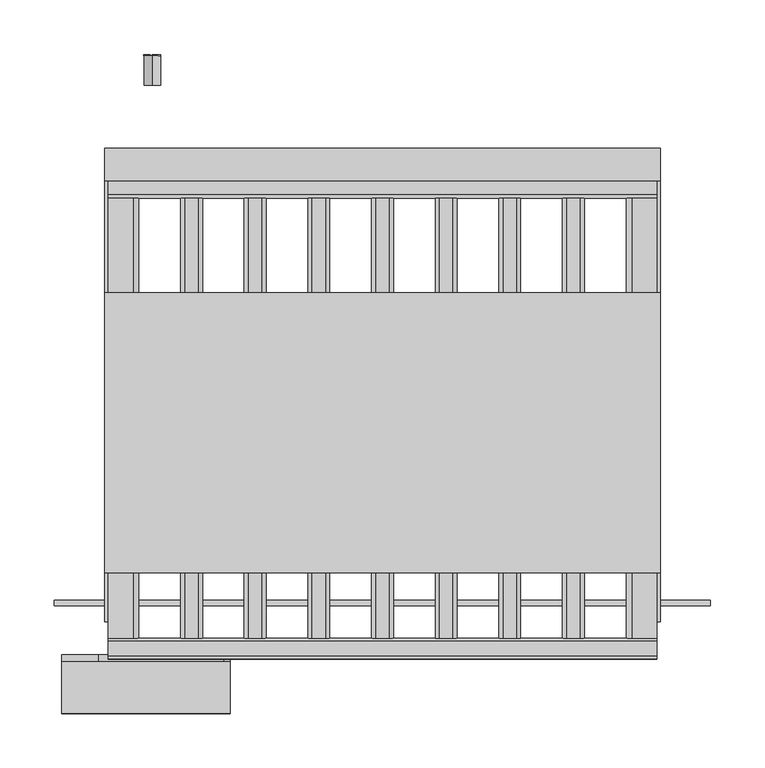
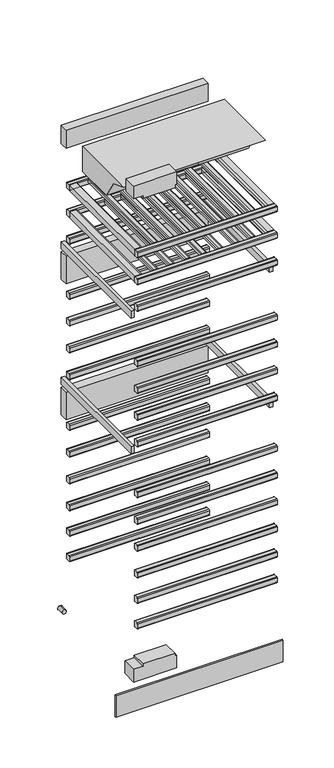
"""IFC4 building model written with IfcOpenShell, lengths in millimetres: proxy geometry, 11503640_USA_KWT2612SF : 36261215_USA_11503640_KWT2612SF."""

from ifc_helpers import new_model, si_unit, point, frame, frame_2d, origin, place, context, project, spatial, polyline, circle_curve, trimmed, segment, composite_curve, outline, extrude, source, transform, mapped, element, save


def specialty_equipment_73186923(model_context):
    return source(origin(), model_context, "Body", "SweptSolid", [
        extrude(outline(composite_curve([segment(polyline([(74.0, 384.0), (87.0, 384.0)]), True, "CONTINUOUS"), segment(trimmed(circle_curve(frame_2d((87.0, 381.0)), 3.0), [point((87.0, 384.0))], [point((90.0, 381.0))], False, "CARTESIAN"), True, "CONTINUOUS"), segment(polyline([(90.0, 381.0), (90.0, 365.0)]), True, "CONTINUOUS"), segment(trimmed(circle_curve(frame_2d((87.0, 365.0)), 3.0), [point((90.0, 365.0))], [point((87.0, 362.0))], False, "CARTESIAN"), True, "CONTINUOUS"), segment(polyline([(87.0, 362.0), (74.0, 362.0)]), True, "CONTINUOUS"), segment(trimmed(circle_curve(frame_2d((74.0, 365.0)), 3.0), [point((74.0, 362.0))], [point((71.0, 365.0))], False, "CARTESIAN"), True, "CONTINUOUS"), segment(polyline([(71.0, 365.0), (71.0, 381.0)]), True, "CONTINUOUS"), segment(trimmed(circle_curve(frame_2d((74.0, 381.0)), 3.0), [point((71.0, 381.0))], [point((74.0, 384.0))], False, "CARTESIAN"), True, "CONTINUOUS")], self_intersect=False)), frame((-252.0, 0.0, 0.0), z_axis=(1.0, 0.0, 0.0), x_axis=(0.0, 1.0, 0.0)), (0.0, 0.0, 1.0), 504.0),
        extrude(outline(composite_curve([segment(polyline([(497.0, 384.0), (510.0, 384.0)]), True, "CONTINUOUS"), segment(trimmed(circle_curve(frame_2d((510.0, 381.0)), 3.0), [point((510.0, 384.0))], [point((513.0, 381.0))], False, "CARTESIAN"), True, "CONTINUOUS"), segment(polyline([(513.0, 381.0), (513.0, 365.0)]), True, "CONTINUOUS"), segment(trimmed(circle_curve(frame_2d((510.0, 365.0)), 3.0), [point((513.0, 365.0))], [point((510.0, 362.0))], False, "CARTESIAN"), True, "CONTINUOUS"), segment(polyline([(510.0, 362.0), (497.0, 362.0)]), True, "CONTINUOUS"), segment(trimmed(circle_curve(frame_2d((497.0, 365.0)), 3.0), [point((497.0, 362.0))], [point((494.0, 365.0))], False, "CARTESIAN"), True, "CONTINUOUS"), segment(polyline([(494.0, 365.0), (494.0, 381.0)]), True, "CONTINUOUS"), segment(trimmed(circle_curve(frame_2d((497.0, 381.0)), 3.0), [point((494.0, 381.0))], [point((497.0, 384.0))], False, "CARTESIAN"), True, "CONTINUOUS")], self_intersect=False)), frame((-252.0, 0.0, 0.0), z_axis=(1.0, 0.0, 0.0), x_axis=(0.0, 1.0, 0.0)), (0.0, 0.0, 1.0), 504.0),
        extrude(outline(composite_curve([segment(polyline([(74.0, 481.0), (87.0, 481.0)]), True, "CONTINUOUS"), segment(trimmed(circle_curve(frame_2d((87.0, 478.0)), 3.0), [point((87.0, 481.0))], [point((90.0, 478.0))], False, "CARTESIAN"), True, "CONTINUOUS"), segment(polyline([(90.0, 478.0), (90.0, 462.0)]), True, "CONTINUOUS"), segment(trimmed(circle_curve(frame_2d((87.0, 462.0)), 3.0), [point((90.0, 462.0))], [point((87.0, 459.0))], False, "CARTESIAN"), True, "CONTINUOUS"), segment(polyline([(87.0, 459.0), (74.0, 459.0)]), True, "CONTINUOUS"), segment(trimmed(circle_curve(frame_2d((74.0, 462.0)), 3.0), [point((74.0, 459.0))], [point((71.0, 462.0))], False, "CARTESIAN"), True, "CONTINUOUS"), segment(polyline([(71.0, 462.0), (71.0, 478.0)]), True, "CONTINUOUS"), segment(trimmed(circle_curve(frame_2d((74.0, 478.0)), 3.0), [point((71.0, 478.0))], [point((74.0, 481.0))], False, "CARTESIAN"), True, "CONTINUOUS")], self_intersect=False)), frame((-252.0, 0.0, 0.0), z_axis=(1.0, 0.0, 0.0), x_axis=(0.0, 1.0, 0.0)), (0.0, 0.0, 1.0), 504.0),
        extrude(outline(composite_curve([segment(polyline([(497.0, 481.0), (510.0, 481.0)]), True, "CONTINUOUS"), segment(trimmed(circle_curve(frame_2d((510.0, 478.0)), 3.0), [point((510.0, 481.0))], [point((513.0, 478.0))], False, "CARTESIAN"), True, "CONTINUOUS"), segment(polyline([(513.0, 478.0), (513.0, 462.0)]), True, "CONTINUOUS"), segment(trimmed(circle_curve(frame_2d((510.0, 462.0)), 3.0), [point((513.0, 462.0))], [point((510.0, 459.0))], False, "CARTESIAN"), True, "CONTINUOUS"), segment(polyline([(510.0, 459.0), (497.0, 459.0)]), True, "CONTINUOUS"), segment(trimmed(circle_curve(frame_2d((497.0, 462.0)), 3.0), [point((497.0, 459.0))], [point((494.0, 462.0))], False, "CARTESIAN"), True, "CONTINUOUS"), segment(polyline([(494.0, 462.0), (494.0, 478.0)]), True, "CONTINUOUS"), segment(trimmed(circle_curve(frame_2d((497.0, 478.0)), 3.0), [point((494.0, 478.0))], [point((497.0, 481.0))], False, "CARTESIAN"), True, "CONTINUOUS")], self_intersect=False)), frame((-252.0, 0.0, 0.0), z_axis=(1.0, 0.0, 0.0), x_axis=(0.0, 1.0, 0.0)), (0.0, 0.0, 1.0), 504.0),
        extrude(outline(composite_curve([segment(polyline([(74.0, 578.0), (87.0, 578.0)]), True, "CONTINUOUS"), segment(trimmed(circle_curve(frame_2d((87.0, 575.0)), 3.0), [point((87.0, 578.0))], [point((90.0, 575.0))], False, "CARTESIAN"), True, "CONTINUOUS"), segment(polyline([(90.0, 575.0), (90.0, 559.0)]), True, "CONTINUOUS"), segment(trimmed(circle_curve(frame_2d((87.0, 559.0)), 3.0), [point((90.0, 559.0))], [point((87.0, 556.0))], False, "CARTESIAN"), True, "CONTINUOUS"), segment(polyline([(87.0, 556.0), (74.0, 556.0)]), True, "CONTINUOUS"), segment(trimmed(circle_curve(frame_2d((74.0, 559.0)), 3.0), [point((74.0, 556.0))], [point((71.0, 559.0))], False, "CARTESIAN"), True, "CONTINUOUS"), segment(polyline([(71.0, 559.0), (71.0, 575.0)]), True, "CONTINUOUS"), segment(trimmed(circle_curve(frame_2d((74.0, 575.0)), 3.0), [point((71.0, 575.0))], [point((74.0, 578.0))], False, "CARTESIAN"), True, "CONTINUOUS")], self_intersect=False)), frame((-252.0, 0.0, 0.0), z_axis=(1.0, 0.0, 0.0), x_axis=(0.0, 1.0, 0.0)), (0.0, 0.0, 1.0), 504.0),
        extrude(outline(composite_curve([segment(polyline([(497.0, 578.0), (510.0, 578.0)]), True, "CONTINUOUS"), segment(trimmed(circle_curve(frame_2d((510.0, 575.0)), 3.0), [point((510.0, 578.0))], [point((513.0, 575.0))], False, "CARTESIAN"), True, "CONTINUOUS"), segment(polyline([(513.0, 575.0), (513.0, 559.0)]), True, "CONTINUOUS"), segment(trimmed(circle_curve(frame_2d((510.0, 559.0)), 3.0), [point((513.0, 559.0))], [point((510.0, 556.0))], False, "CARTESIAN"), True, "CONTINUOUS"), segment(polyline([(510.0, 556.0), (497.0, 556.0)]), True, "CONTINUOUS"), segment(trimmed(circle_curve(frame_2d((497.0, 559.0)), 3.0), [point((497.0, 556.0))], [point((494.0, 559.0))], False, "CARTESIAN"), True, "CONTINUOUS"), segment(polyline([(494.0, 559.0), (494.0, 575.0)]), True, "CONTINUOUS"), segment(trimmed(circle_curve(frame_2d((497.0, 575.0)), 3.0), [point((494.0, 575.0))], [point((497.0, 578.0))], False, "CARTESIAN"), True, "CONTINUOUS")], self_intersect=False)), frame((-252.0, 0.0, 0.0), z_axis=(1.0, 0.0, 0.0), x_axis=(0.0, 1.0, 0.0)), (0.0, 0.0, 1.0), 504.0),
        extrude(outline(composite_curve([segment(polyline([(74.0, 680.0), (87.0, 680.0)]), True, "CONTINUOUS"), segment(trimmed(circle_curve(frame_2d((87.0, 677.0)), 3.0), [point((87.0, 680.0))], [point((90.0, 677.0))], False, "CARTESIAN"), True, "CONTINUOUS"), segment(polyline([(90.0, 677.0), (90.0, 661.0)]), True, "CONTINUOUS"), segment(trimmed(circle_curve(frame_2d((87.0, 661.0)), 3.0), [point((90.0, 661.0))], [point((87.0, 658.0))], False, "CARTESIAN"), True, "CONTINUOUS"), segment(polyline([(87.0, 658.0), (74.0, 658.0)]), True, "CONTINUOUS"), segment(trimmed(circle_curve(frame_2d((74.0, 661.0)), 3.0), [point((74.0, 658.0))], [point((71.0, 661.0))], False, "CARTESIAN"), True, "CONTINUOUS"), segment(polyline([(71.0, 661.0), (71.0, 677.0)]), True, "CONTINUOUS"), segment(trimmed(circle_curve(frame_2d((74.0, 677.0)), 3.0), [point((71.0, 677.0))], [point((74.0, 680.0))], False, "CARTESIAN"), True, "CONTINUOUS")], self_intersect=False)), frame((-252.0, 0.0, 0.0), z_axis=(1.0, 0.0, 0.0), x_axis=(0.0, 1.0, 0.0)), (0.0, 0.0, 1.0), 504.0),
        extrude(outline(composite_curve([segment(polyline([(497.0, 680.0), (510.0, 680.0)]), True, "CONTINUOUS"), segment(trimmed(circle_curve(frame_2d((510.0, 677.0)), 3.0), [point((510.0, 680.0))], [point((513.0, 677.0))], False, "CARTESIAN"), True, "CONTINUOUS"), segment(polyline([(513.0, 677.0), (513.0, 661.0)]), True, "CONTINUOUS"), segment(trimmed(circle_curve(frame_2d((510.0, 661.0)), 3.0), [point((513.0, 661.0))], [point((510.0, 658.0))], False, "CARTESIAN"), True, "CONTINUOUS"), segment(polyline([(510.0, 658.0), (497.0, 658.0)]), True, "CONTINUOUS"), segment(trimmed(circle_curve(frame_2d((497.0, 661.0)), 3.0), [point((497.0, 658.0))], [point((494.0, 661.0))], False, "CARTESIAN"), True, "CONTINUOUS"), segment(polyline([(494.0, 661.0), (494.0, 677.0)]), True, "CONTINUOUS"), segment(trimmed(circle_curve(frame_2d((497.0, 677.0)), 3.0), [point((494.0, 677.0))], [point((497.0, 680.0))], False, "CARTESIAN"), True, "CONTINUOUS")], self_intersect=False)), frame((-252.0, 0.0, 0.0), z_axis=(1.0, 0.0, 0.0), x_axis=(0.0, 1.0, 0.0)), (0.0, 0.0, 1.0), 504.0),
        extrude(outline(composite_curve([segment(polyline([(74.0, 782.0), (87.0, 782.0)]), True, "CONTINUOUS"), segment(trimmed(circle_curve(frame_2d((87.0, 779.0)), 3.0), [point((87.0, 782.0))], [point((90.0, 779.0))], False, "CARTESIAN"), True, "CONTINUOUS"), segment(polyline([(90.0, 779.0), (90.0, 763.0)]), True, "CONTINUOUS"), segment(trimmed(circle_curve(frame_2d((87.0, 763.0)), 3.0), [point((90.0, 763.0))], [point((87.0, 760.0))], False, "CARTESIAN"), True, "CONTINUOUS"), segment(polyline([(87.0, 760.0), (74.0, 760.0)]), True, "CONTINUOUS"), segment(trimmed(circle_curve(frame_2d((74.0, 763.0)), 3.0), [point((74.0, 760.0))], [point((71.0, 763.0))], False, "CARTESIAN"), True, "CONTINUOUS"), segment(polyline([(71.0, 763.0), (71.0, 779.0)]), True, "CONTINUOUS"), segment(trimmed(circle_curve(frame_2d((74.0, 779.0)), 3.0), [point((71.0, 779.0))], [point((74.0, 782.0))], False, "CARTESIAN"), True, "CONTINUOUS")], self_intersect=False)), frame((-252.0, 0.0, 0.0), z_axis=(1.0, 0.0, 0.0), x_axis=(0.0, 1.0, 0.0)), (0.0, 0.0, 1.0), 504.0),
        extrude(outline(composite_curve([segment(polyline([(497.0, 782.0), (510.0, 782.0)]), True, "CONTINUOUS"), segment(trimmed(circle_curve(frame_2d((510.0, 779.0)), 3.0), [point((510.0, 782.0))], [point((513.0, 779.0))], False, "CARTESIAN"), True, "CONTINUOUS"), segment(polyline([(513.0, 779.0), (513.0, 763.0)]), True, "CONTINUOUS"), segment(trimmed(circle_curve(frame_2d((510.0, 763.0)), 3.0), [point((513.0, 763.0))], [point((510.0, 760.0))], False, "CARTESIAN"), True, "CONTINUOUS"), segment(polyline([(510.0, 760.0), (497.0, 760.0)]), True, "CONTINUOUS"), segment(trimmed(circle_curve(frame_2d((497.0, 763.0)), 3.0), [point((497.0, 760.0))], [point((494.0, 763.0))], False, "CARTESIAN"), True, "CONTINUOUS"), segment(polyline([(494.0, 763.0), (494.0, 779.0)]), True, "CONTINUOUS"), segment(trimmed(circle_curve(frame_2d((497.0, 779.0)), 3.0), [point((494.0, 779.0))], [point((497.0, 782.0))], False, "CARTESIAN"), True, "CONTINUOUS")], self_intersect=False)), frame((-252.0, 0.0, 0.0), z_axis=(1.0, 0.0, 0.0), x_axis=(0.0, 1.0, 0.0)), (0.0, 0.0, 1.0), 504.0),
        extrude(outline(composite_curve([segment(polyline([(74.0, 884.0), (87.0, 884.0)]), True, "CONTINUOUS"), segment(trimmed(circle_curve(frame_2d((87.0, 881.0)), 3.0), [point((87.0, 884.0))], [point((90.0, 881.0))], False, "CARTESIAN"), True, "CONTINUOUS"), segment(polyline([(90.0, 881.0), (90.0, 865.0)]), True, "CONTINUOUS"), segment(trimmed(circle_curve(frame_2d((87.0, 865.0)), 3.0), [point((90.0, 865.0))], [point((87.0, 862.0))], False, "CARTESIAN"), True, "CONTINUOUS"), segment(polyline([(87.0, 862.0), (74.0, 862.0)]), True, "CONTINUOUS"), segment(trimmed(circle_curve(frame_2d((74.0, 865.0)), 3.0), [point((74.0, 862.0))], [point((71.0, 865.0))], False, "CARTESIAN"), True, "CONTINUOUS"), segment(polyline([(71.0, 865.0), (71.0, 881.0)]), True, "CONTINUOUS"), segment(trimmed(circle_curve(frame_2d((74.0, 881.0)), 3.0), [point((71.0, 881.0))], [point((74.0, 884.0))], False, "CARTESIAN"), True, "CONTINUOUS")], self_intersect=False)), frame((-252.0, 0.0, 0.0), z_axis=(1.0, 0.0, 0.0), x_axis=(0.0, 1.0, 0.0)), (0.0, 0.0, 1.0), 504.0),
        extrude(outline(composite_curve([segment(polyline([(497.0, 884.0), (510.0, 884.0)]), True, "CONTINUOUS"), segment(trimmed(circle_curve(frame_2d((510.0, 881.0)), 3.0), [point((510.0, 884.0))], [point((513.0, 881.0))], False, "CARTESIAN"), True, "CONTINUOUS"), segment(polyline([(513.0, 881.0), (513.0, 865.0)]), True, "CONTINUOUS"), segment(trimmed(circle_curve(frame_2d((510.0, 865.0)), 3.0), [point((513.0, 865.0))], [point((510.0, 862.0))], False, "CARTESIAN"), True, "CONTINUOUS"), segment(polyline([(510.0, 862.0), (497.0, 862.0)]), True, "CONTINUOUS"), segment(trimmed(circle_curve(frame_2d((497.0, 865.0)), 3.0), [point((497.0, 862.0))], [point((494.0, 865.0))], False, "CARTESIAN"), True, "CONTINUOUS"), segment(polyline([(494.0, 865.0), (494.0, 881.0)]), True, "CONTINUOUS"), segment(trimmed(circle_curve(frame_2d((497.0, 881.0)), 3.0), [point((494.0, 881.0))], [point((497.0, 884.0))], False, "CARTESIAN"), True, "CONTINUOUS")], self_intersect=False)), frame((-252.0, 0.0, 0.0), z_axis=(1.0, 0.0, 0.0), x_axis=(0.0, 1.0, 0.0)), (0.0, 0.0, 1.0), 504.0),
        extrude(outline(composite_curve([segment(polyline([(74.0, 1077.0), (87.0, 1077.0)]), True, "CONTINUOUS"), segment(trimmed(circle_curve(frame_2d((87.0, 1074.0)), 3.0), [point((87.0, 1077.0))], [point((90.0, 1074.0))], False, "CARTESIAN"), True, "CONTINUOUS"), segment(polyline([(90.0, 1074.0), (90.0, 1058.0)]), True, "CONTINUOUS"), segment(trimmed(circle_curve(frame_2d((87.0, 1058.0)), 3.0), [point((90.0, 1058.0))], [point((87.0, 1055.0))], False, "CARTESIAN"), True, "CONTINUOUS"), segment(polyline([(87.0, 1055.0), (74.0, 1055.0)]), True, "CONTINUOUS"), segment(trimmed(circle_curve(frame_2d((74.0, 1058.0)), 3.0), [point((74.0, 1055.0))], [point((71.0, 1058.0))], False, "CARTESIAN"), True, "CONTINUOUS"), segment(polyline([(71.0, 1058.0), (71.0, 1074.0)]), True, "CONTINUOUS"), segment(trimmed(circle_curve(frame_2d((74.0, 1074.0)), 3.0), [point((71.0, 1074.0))], [point((74.0, 1077.0))], False, "CARTESIAN"), True, "CONTINUOUS")], self_intersect=False)), frame((-252.0, 0.0, 0.0), z_axis=(1.0, 0.0, 0.0), x_axis=(0.0, 1.0, 0.0)), (0.0, 0.0, 1.0), 504.0),
        extrude(outline(composite_curve([segment(polyline([(497.0, 1077.0), (510.0, 1077.0)]), True, "CONTINUOUS"), segment(trimmed(circle_curve(frame_2d((510.0, 1074.0)), 3.0), [point((510.0, 1077.0))], [point((513.0, 1074.0))], False, "CARTESIAN"), True, "CONTINUOUS"), segment(polyline([(513.0, 1074.0), (513.0, 1058.0)]), True, "CONTINUOUS"), segment(trimmed(circle_curve(frame_2d((510.0, 1058.0)), 3.0), [point((513.0, 1058.0))], [point((510.0, 1055.0))], False, "CARTESIAN"), True, "CONTINUOUS"), segment(polyline([(510.0, 1055.0), (497.0, 1055.0)]), True, "CONTINUOUS"), segment(trimmed(circle_curve(frame_2d((497.0, 1058.0)), 3.0), [point((497.0, 1055.0))], [point((494.0, 1058.0))], False, "CARTESIAN"), True, "CONTINUOUS"), segment(polyline([(494.0, 1058.0), (494.0, 1074.0)]), True, "CONTINUOUS"), segment(trimmed(circle_curve(frame_2d((497.0, 1074.0)), 3.0), [point((494.0, 1074.0))], [point((497.0, 1077.0))], False, "CARTESIAN"), True, "CONTINUOUS")], self_intersect=False)), frame((-252.0, 0.0, 0.0), z_axis=(1.0, 0.0, 0.0), x_axis=(0.0, 1.0, 0.0)), (0.0, 0.0, 1.0), 504.0),
        extrude(outline(composite_curve([segment(polyline([(74.0, 1179.0), (87.0, 1179.0)]), True, "CONTINUOUS"), segment(trimmed(circle_curve(frame_2d((87.0, 1176.0)), 3.0), [point((87.0, 1179.0))], [point((90.0, 1176.0))], False, "CARTESIAN"), True, "CONTINUOUS"), segment(polyline([(90.0, 1176.0), (90.0, 1160.0)]), True, "CONTINUOUS"), segment(trimmed(circle_curve(frame_2d((87.0, 1160.0)), 3.0), [point((90.0, 1160.0))], [point((87.0, 1157.0))], False, "CARTESIAN"), True, "CONTINUOUS"), segment(polyline([(87.0, 1157.0), (74.0, 1157.0)]), True, "CONTINUOUS"), segment(trimmed(circle_curve(frame_2d((74.0, 1160.0)), 3.0), [point((74.0, 1157.0))], [point((71.0, 1160.0))], False, "CARTESIAN"), True, "CONTINUOUS"), segment(polyline([(71.0, 1160.0), (71.0, 1176.0)]), True, "CONTINUOUS"), segment(trimmed(circle_curve(frame_2d((74.0, 1176.0)), 3.0), [point((71.0, 1176.0))], [point((74.0, 1179.0))], False, "CARTESIAN"), True, "CONTINUOUS")], self_intersect=False)), frame((-252.0, 0.0, 0.0), z_axis=(1.0, 0.0, 0.0), x_axis=(0.0, 1.0, 0.0)), (0.0, 0.0, 1.0), 504.0),
        extrude(outline(composite_curve([segment(polyline([(497.0, 1179.0), (510.0, 1179.0)]), True, "CONTINUOUS"), segment(trimmed(circle_curve(frame_2d((510.0, 1176.0)), 3.0), [point((510.0, 1179.0))], [point((513.0, 1176.0))], False, "CARTESIAN"), True, "CONTINUOUS"), segment(polyline([(513.0, 1176.0), (513.0, 1160.0)]), True, "CONTINUOUS"), segment(trimmed(circle_curve(frame_2d((510.0, 1160.0)), 3.0), [point((513.0, 1160.0))], [point((510.0, 1157.0))], False, "CARTESIAN"), True, "CONTINUOUS"), segment(polyline([(510.0, 1157.0), (497.0, 1157.0)]), True, "CONTINUOUS"), segment(trimmed(circle_curve(frame_2d((497.0, 1160.0)), 3.0), [point((497.0, 1157.0))], [point((494.0, 1160.0))], False, "CARTESIAN"), True, "CONTINUOUS"), segment(polyline([(494.0, 1160.0), (494.0, 1176.0)]), True, "CONTINUOUS"), segment(trimmed(circle_curve(frame_2d((497.0, 1176.0)), 3.0), [point((494.0, 1176.0))], [point((497.0, 1179.0))], False, "CARTESIAN"), True, "CONTINUOUS")], self_intersect=False)), frame((-252.0, 0.0, 0.0), z_axis=(1.0, 0.0, 0.0), x_axis=(0.0, 1.0, 0.0)), (0.0, 0.0, 1.0), 504.0),
        extrude(outline(composite_curve([segment(polyline([(74.0, 1281.0), (87.0, 1281.0)]), True, "CONTINUOUS"), segment(trimmed(circle_curve(frame_2d((87.0, 1278.0)), 3.0), [point((87.0, 1281.0))], [point((90.0, 1278.0))], False, "CARTESIAN"), True, "CONTINUOUS"), segment(polyline([(90.0, 1278.0), (90.0, 1262.0)]), True, "CONTINUOUS"), segment(trimmed(circle_curve(frame_2d((87.0, 1262.0)), 3.0), [point((90.0, 1262.0))], [point((87.0, 1259.0))], False, "CARTESIAN"), True, "CONTINUOUS"), segment(polyline([(87.0, 1259.0), (74.0, 1259.0)]), True, "CONTINUOUS"), segment(trimmed(circle_curve(frame_2d((74.0, 1262.0)), 3.0), [point((74.0, 1259.0))], [point((71.0, 1262.0))], False, "CARTESIAN"), True, "CONTINUOUS"), segment(polyline([(71.0, 1262.0), (71.0, 1278.0)]), True, "CONTINUOUS"), segment(trimmed(circle_curve(frame_2d((74.0, 1278.0)), 3.0), [point((71.0, 1278.0))], [point((74.0, 1281.0))], False, "CARTESIAN"), True, "CONTINUOUS")], self_intersect=False)), frame((-252.0, 0.0, 0.0), z_axis=(1.0, 0.0, 0.0), x_axis=(0.0, 1.0, 0.0)), (0.0, 0.0, 1.0), 504.0),
        extrude(outline(composite_curve([segment(polyline([(497.0, 1281.0), (510.0, 1281.0)]), True, "CONTINUOUS"), segment(trimmed(circle_curve(frame_2d((510.0, 1278.0)), 3.0), [point((510.0, 1281.0))], [point((513.0, 1278.0))], False, "CARTESIAN"), True, "CONTINUOUS"), segment(polyline([(513.0, 1278.0), (513.0, 1262.0)]), True, "CONTINUOUS"), segment(trimmed(circle_curve(frame_2d((510.0, 1262.0)), 3.0), [point((513.0, 1262.0))], [point((510.0, 1259.0))], False, "CARTESIAN"), True, "CONTINUOUS"), segment(polyline([(510.0, 1259.0), (497.0, 1259.0)]), True, "CONTINUOUS"), segment(trimmed(circle_curve(frame_2d((497.0, 1262.0)), 3.0), [point((497.0, 1259.0))], [point((494.0, 1262.0))], False, "CARTESIAN"), True, "CONTINUOUS"), segment(polyline([(494.0, 1262.0), (494.0, 1278.0)]), True, "CONTINUOUS"), segment(trimmed(circle_curve(frame_2d((497.0, 1278.0)), 3.0), [point((494.0, 1278.0))], [point((497.0, 1281.0))], False, "CARTESIAN"), True, "CONTINUOUS")], self_intersect=False)), frame((-252.0, 0.0, 0.0), z_axis=(1.0, 0.0, 0.0), x_axis=(0.0, 1.0, 0.0)), (0.0, 0.0, 1.0), 504.0),
        extrude(outline(composite_curve([segment(polyline([(74.0, 1383.0), (87.0, 1383.0)]), True, "CONTINUOUS"), segment(trimmed(circle_curve(frame_2d((87.0, 1380.0)), 3.0), [point((87.0, 1383.0))], [point((90.0, 1380.0))], False, "CARTESIAN"), True, "CONTINUOUS"), segment(polyline([(90.0, 1380.0), (90.0, 1364.0)]), True, "CONTINUOUS"), segment(trimmed(circle_curve(frame_2d((87.0, 1364.0)), 3.0), [point((90.0, 1364.0))], [point((87.0, 1361.0))], False, "CARTESIAN"), True, "CONTINUOUS"), segment(polyline([(87.0, 1361.0), (74.0, 1361.0)]), True, "CONTINUOUS"), segment(trimmed(circle_curve(frame_2d((74.0, 1364.0)), 3.0), [point((74.0, 1361.0))], [point((71.0, 1364.0))], False, "CARTESIAN"), True, "CONTINUOUS"), segment(polyline([(71.0, 1364.0), (71.0, 1380.0)]), True, "CONTINUOUS"), segment(trimmed(circle_curve(frame_2d((74.0, 1380.0)), 3.0), [point((71.0, 1380.0))], [point((74.0, 1383.0))], False, "CARTESIAN"), True, "CONTINUOUS")], self_intersect=False)), frame((-252.0, 0.0, 0.0), z_axis=(1.0, 0.0, 0.0), x_axis=(0.0, 1.0, 0.0)), (0.0, 0.0, 1.0), 504.0),
        extrude(outline(composite_curve([segment(polyline([(497.0, 1383.0), (510.0, 1383.0)]), True, "CONTINUOUS"), segment(trimmed(circle_curve(frame_2d((510.0, 1380.0)), 3.0), [point((510.0, 1383.0))], [point((513.0, 1380.0))], False, "CARTESIAN"), True, "CONTINUOUS"), segment(polyline([(513.0, 1380.0), (513.0, 1364.0)]), True, "CONTINUOUS"), segment(trimmed(circle_curve(frame_2d((510.0, 1364.0)), 3.0), [point((513.0, 1364.0))], [point((510.0, 1361.0))], False, "CARTESIAN"), True, "CONTINUOUS"), segment(polyline([(510.0, 1361.0), (497.0, 1361.0)]), True, "CONTINUOUS"), segment(trimmed(circle_curve(frame_2d((497.0, 1364.0)), 3.0), [point((497.0, 1361.0))], [point((494.0, 1364.0))], False, "CARTESIAN"), True, "CONTINUOUS"), segment(polyline([(494.0, 1364.0), (494.0, 1380.0)]), True, "CONTINUOUS"), segment(trimmed(circle_curve(frame_2d((497.0, 1380.0)), 3.0), [point((494.0, 1380.0))], [point((497.0, 1383.0))], False, "CARTESIAN"), True, "CONTINUOUS")], self_intersect=False)), frame((-252.0, 0.0, 0.0), z_axis=(1.0, 0.0, 0.0), x_axis=(0.0, 1.0, 0.0)), (0.0, 0.0, 1.0), 504.0),
        extrude(outline(composite_curve([segment(polyline([(74.0, 1593.0), (87.0, 1593.0)]), True, "CONTINUOUS"), segment(trimmed(circle_curve(frame_2d((87.0, 1590.0)), 3.0), [point((87.0, 1593.0))], [point((90.0, 1590.0))], False, "CARTESIAN"), True, "CONTINUOUS"), segment(polyline([(90.0, 1590.0), (90.0, 1574.0)]), True, "CONTINUOUS"), segment(trimmed(circle_curve(frame_2d((87.0, 1574.0)), 3.0), [point((90.0, 1574.0))], [point((87.0, 1571.0))], False, "CARTESIAN"), True, "CONTINUOUS"), segment(polyline([(87.0, 1571.0), (74.0, 1571.0)]), True, "CONTINUOUS"), segment(trimmed(circle_curve(frame_2d((74.0, 1574.0)), 3.0), [point((74.0, 1571.0))], [point((71.0, 1574.0))], False, "CARTESIAN"), True, "CONTINUOUS"), segment(polyline([(71.0, 1574.0), (71.0, 1590.0)]), True, "CONTINUOUS"), segment(trimmed(circle_curve(frame_2d((74.0, 1590.0)), 3.0), [point((71.0, 1590.0))], [point((74.0, 1593.0))], False, "CARTESIAN"), True, "CONTINUOUS")], self_intersect=False)), frame((-252.0, 0.0, 0.0), z_axis=(1.0, 0.0, 0.0), x_axis=(0.0, 1.0, 0.0)), (0.0, 0.0, 1.0), 504.0),
        extrude(outline(composite_curve([segment(polyline([(497.0, 1593.0), (510.0, 1593.0)]), True, "CONTINUOUS"), segment(trimmed(circle_curve(frame_2d((510.0, 1590.0)), 3.0), [point((510.0, 1593.0))], [point((513.0, 1590.0))], False, "CARTESIAN"), True, "CONTINUOUS"), segment(polyline([(513.0, 1590.0), (513.0, 1574.0)]), True, "CONTINUOUS"), segment(trimmed(circle_curve(frame_2d((510.0, 1574.0)), 3.0), [point((513.0, 1574.0))], [point((510.0, 1571.0))], False, "CARTESIAN"), True, "CONTINUOUS"), segment(polyline([(510.0, 1571.0), (497.0, 1571.0)]), True, "CONTINUOUS"), segment(trimmed(circle_curve(frame_2d((497.0, 1574.0)), 3.0), [point((497.0, 1571.0))], [point((494.0, 1574.0))], False, "CARTESIAN"), True, "CONTINUOUS"), segment(polyline([(494.0, 1574.0), (494.0, 1590.0)]), True, "CONTINUOUS"), segment(trimmed(circle_curve(frame_2d((497.0, 1590.0)), 3.0), [point((494.0, 1590.0))], [point((497.0, 1593.0))], False, "CARTESIAN"), True, "CONTINUOUS")], self_intersect=False)), frame((-252.0, 0.0, 0.0), z_axis=(1.0, 0.0, 0.0), x_axis=(0.0, 1.0, 0.0)), (0.0, 0.0, 1.0), 504.0),
        extrude(outline(composite_curve([segment(polyline([(74.0, 1695.0), (87.0, 1695.0)]), True, "CONTINUOUS"), segment(trimmed(circle_curve(frame_2d((87.0, 1692.0)), 3.0), [point((87.0, 1695.0))], [point((90.0, 1692.0))], False, "CARTESIAN"), True, "CONTINUOUS"), segment(polyline([(90.0, 1692.0), (90.0, 1676.0)]), True, "CONTINUOUS"), segment(trimmed(circle_curve(frame_2d((87.0, 1676.0)), 3.0), [point((90.0, 1676.0))], [point((87.0, 1673.0))], False, "CARTESIAN"), True, "CONTINUOUS"), segment(polyline([(87.0, 1673.0), (74.0, 1673.0)]), True, "CONTINUOUS"), segment(trimmed(circle_curve(frame_2d((74.0, 1676.0)), 3.0), [point((74.0, 1673.0))], [point((71.0, 1676.0))], False, "CARTESIAN"), True, "CONTINUOUS"), segment(polyline([(71.0, 1676.0), (71.0, 1692.0)]), True, "CONTINUOUS"), segment(trimmed(circle_curve(frame_2d((74.0, 1692.0)), 3.0), [point((71.0, 1692.0))], [point((74.0, 1695.0))], False, "CARTESIAN"), True, "CONTINUOUS")], self_intersect=False)), frame((-252.0, 0.0, 0.0), z_axis=(1.0, 0.0, 0.0), x_axis=(0.0, 1.0, 0.0)), (0.0, 0.0, 1.0), 504.0),
        extrude(outline(composite_curve([segment(polyline([(497.0, 1695.0), (510.0, 1695.0)]), True, "CONTINUOUS"), segment(trimmed(circle_curve(frame_2d((510.0, 1692.0)), 3.0), [point((510.0, 1695.0))], [point((513.0, 1692.0))], False, "CARTESIAN"), True, "CONTINUOUS"), segment(polyline([(513.0, 1692.0), (513.0, 1676.0)]), True, "CONTINUOUS"), segment(trimmed(circle_curve(frame_2d((510.0, 1676.0)), 3.0), [point((513.0, 1676.0))], [point((510.0, 1673.0))], False, "CARTESIAN"), True, "CONTINUOUS"), segment(polyline([(510.0, 1673.0), (497.0, 1673.0)]), True, "CONTINUOUS"), segment(trimmed(circle_curve(frame_2d((497.0, 1676.0)), 3.0), [point((497.0, 1673.0))], [point((494.0, 1676.0))], False, "CARTESIAN"), True, "CONTINUOUS"), segment(polyline([(494.0, 1676.0), (494.0, 1692.0)]), True, "CONTINUOUS"), segment(trimmed(circle_curve(frame_2d((497.0, 1692.0)), 3.0), [point((494.0, 1692.0))], [point((497.0, 1695.0))], False, "CARTESIAN"), True, "CONTINUOUS")], self_intersect=False)), frame((-252.0, 0.0, 0.0), z_axis=(1.0, 0.0, 0.0), x_axis=(0.0, 1.0, 0.0)), (0.0, 0.0, 1.0), 504.0),
        extrude(outline(composite_curve([segment(polyline([(1695.0, -252.0), (1673.0, -252.0), (1673.0, -229.0)]), True, "CONTINUOUS"), segment(trimmed(circle_curve(frame_2d((1678.0, -229.0)), 5.0), [point((1673.0, -229.0))], [point((1678.0, -224.0))], False, "CARTESIAN"), True, "CONTINUOUS"), segment(polyline([(1678.0, -224.0), (1690.0, -224.0)]), True, "CONTINUOUS"), segment(trimmed(circle_curve(frame_2d((1690.0, -229.0)), 5.0), [point((1690.0, -224.0))], [point((1695.0, -229.0))], False, "CARTESIAN"), True, "CONTINUOUS"), segment(polyline([(1695.0, -229.0), (1695.0, -252.0)]), True, "CONTINUOUS")], self_intersect=False)), frame((0.0, 90.0, 0.0), z_axis=(0.0, 1.0, 0.0), x_axis=(0.0, 0.0, 1.0)), (0.0, 0.0, 1.0), 404.0),
        extrude(outline(composite_curve([segment(polyline([(1691.0, -185.5), (1683.039218, -185.5), (1683.039218, -165.5), (1691.0, -165.5)]), True, "CONTINUOUS"), segment(trimmed(circle_curve(frame_2d((1691.0, -169.5)), 4.0), [point((1691.0, -165.5))], [point((1695.0, -169.5))], False, "CARTESIAN"), True, "CONTINUOUS"), segment(polyline([(1695.0, -169.5), (1695.0, -181.5)]), True, "CONTINUOUS"), segment(trimmed(circle_curve(frame_2d((1691.0, -181.5)), 4.0), [point((1695.0, -181.5))], [point((1691.0, -185.5))], False, "CARTESIAN"), True, "CONTINUOUS")], self_intersect=False)), frame((0.0, 90.0, 0.0), z_axis=(0.0, 1.0, 0.0), x_axis=(0.0, 0.0, 1.0)), (0.0, 0.0, 1.0), 404.0),
        extrude(outline(composite_curve([segment(polyline([(1695.0, 252.0), (1695.0, 229.0)]), True, "CONTINUOUS"), segment(trimmed(circle_curve(frame_2d((1690.0, 229.0)), 5.0), [point((1695.0, 229.0))], [point((1690.0, 224.0))], False, "CARTESIAN"), True, "CONTINUOUS"), segment(polyline([(1690.0, 224.0), (1678.0, 224.0)]), True, "CONTINUOUS"), segment(trimmed(circle_curve(frame_2d((1678.0, 229.0)), 5.0), [point((1678.0, 224.0))], [point((1673.0, 229.0))], False, "CARTESIAN"), True, "CONTINUOUS"), segment(polyline([(1673.0, 229.0), (1673.0, 252.0), (1695.0, 252.0)]), True, "CONTINUOUS")], self_intersect=False)), frame((0.0, 90.0, 0.0), z_axis=(0.0, 1.0, 0.0), x_axis=(0.0, 0.0, 1.0)), (0.0, 0.0, 1.0), 404.0),
        extrude(outline(composite_curve([segment(polyline([(1691.0, -127.0), (1683.039218, -127.0), (1683.039218, -107.0), (1691.0, -107.0)]), True, "CONTINUOUS"), segment(trimmed(circle_curve(frame_2d((1691.0, -111.0)), 4.0), [point((1691.0, -107.0))], [point((1695.0, -111.0))], False, "CARTESIAN"), True, "CONTINUOUS"), segment(polyline([(1695.0, -111.0), (1695.0, -123.0)]), True, "CONTINUOUS"), segment(trimmed(circle_curve(frame_2d((1691.0, -123.0)), 4.0), [point((1695.0, -123.0))], [point((1691.0, -127.0))], False, "CARTESIAN"), True, "CONTINUOUS")], self_intersect=False)), frame((0.0, 90.0, 0.0), z_axis=(0.0, 1.0, 0.0), x_axis=(0.0, 0.0, 1.0)), (0.0, 0.0, 1.0), 404.0),
        extrude(outline(composite_curve([segment(polyline([(1691.0, -68.5), (1683.039218, -68.5), (1683.039218, -48.5), (1691.0, -48.5)]), True, "CONTINUOUS"), segment(trimmed(circle_curve(frame_2d((1691.0, -52.5)), 4.0), [point((1691.0, -48.5))], [point((1695.0, -52.5))], False, "CARTESIAN"), True, "CONTINUOUS"), segment(polyline([(1695.0, -52.5), (1695.0, -64.5)]), True, "CONTINUOUS"), segment(trimmed(circle_curve(frame_2d((1691.0, -64.5)), 4.0), [point((1695.0, -64.5))], [point((1691.0, -68.5))], False, "CARTESIAN"), True, "CONTINUOUS")], self_intersect=False)), frame((0.0, 90.0, 0.0), z_axis=(0.0, 1.0, 0.0), x_axis=(0.0, 0.0, 1.0)), (0.0, 0.0, 1.0), 404.0),
        extrude(outline(composite_curve([segment(polyline([(1691.0, -10.0), (1683.039218, -10.0), (1683.039218, 10.0), (1691.0, 10.0)]), True, "CONTINUOUS"), segment(trimmed(circle_curve(frame_2d((1691.0, 6.0)), 4.0), [point((1691.0, 10.0))], [point((1695.0, 6.0))], False, "CARTESIAN"), True, "CONTINUOUS"), segment(polyline([(1695.0, 6.0), (1695.0, -6.0)]), True, "CONTINUOUS"), segment(trimmed(circle_curve(frame_2d((1691.0, -6.0)), 4.0), [point((1695.0, -6.0))], [point((1691.0, -10.0))], False, "CARTESIAN"), True, "CONTINUOUS")], self_intersect=False)), frame((0.0, 90.0, 0.0), z_axis=(0.0, 1.0, 0.0), x_axis=(0.0, 0.0, 1.0)), (0.0, 0.0, 1.0), 404.0),
        extrude(outline(composite_curve([segment(polyline([(1691.0, 48.5), (1683.039218, 48.5), (1683.039218, 68.5), (1691.0, 68.5)]), True, "CONTINUOUS"), segment(trimmed(circle_curve(frame_2d((1691.0, 64.5)), 4.0), [point((1691.0, 68.5))], [point((1695.0, 64.5))], False, "CARTESIAN"), True, "CONTINUOUS"), segment(polyline([(1695.0, 64.5), (1695.0, 52.5)]), True, "CONTINUOUS"), segment(trimmed(circle_curve(frame_2d((1691.0, 52.5)), 4.0), [point((1695.0, 52.5))], [point((1691.0, 48.5))], False, "CARTESIAN"), True, "CONTINUOUS")], self_intersect=False)), frame((0.0, 90.0, 0.0), z_axis=(0.0, 1.0, 0.0), x_axis=(0.0, 0.0, 1.0)), (0.0, 0.0, 1.0), 404.0),
        extrude(outline(composite_curve([segment(polyline([(1691.0, 107.0), (1683.039218, 107.0), (1683.039218, 127.0), (1691.0, 127.0)]), True, "CONTINUOUS"), segment(trimmed(circle_curve(frame_2d((1691.0, 123.0)), 4.0), [point((1691.0, 127.0))], [point((1695.0, 123.0))], False, "CARTESIAN"), True, "CONTINUOUS"), segment(polyline([(1695.0, 123.0), (1695.0, 111.0)]), True, "CONTINUOUS"), segment(trimmed(circle_curve(frame_2d((1691.0, 111.0)), 4.0), [point((1695.0, 111.0))], [point((1691.0, 107.0))], False, "CARTESIAN"), True, "CONTINUOUS")], self_intersect=False)), frame((0.0, 90.0, 0.0), z_axis=(0.0, 1.0, 0.0), x_axis=(0.0, 0.0, 1.0)), (0.0, 0.0, 1.0), 404.0),
        extrude(outline(composite_curve([segment(polyline([(1691.0, 165.5), (1683.039218, 165.5), (1683.039218, 185.5), (1691.0, 185.5)]), True, "CONTINUOUS"), segment(trimmed(circle_curve(frame_2d((1691.0, 181.5)), 4.0), [point((1691.0, 185.5))], [point((1695.0, 181.5))], False, "CARTESIAN"), True, "CONTINUOUS"), segment(polyline([(1695.0, 181.5), (1695.0, 169.5)]), True, "CONTINUOUS"), segment(trimmed(circle_curve(frame_2d((1691.0, 169.5)), 4.0), [point((1695.0, 169.5))], [point((1691.0, 165.5))], False, "CARTESIAN"), True, "CONTINUOUS")], self_intersect=False)), frame((0.0, 90.0, 0.0), z_axis=(0.0, 1.0, 0.0), x_axis=(0.0, 0.0, 1.0)), (0.0, 0.0, 1.0), 404.0),
        extrude(outline(composite_curve([segment(polyline([(1797.0, -229.0), (1797.0, -252.0), (1775.0, -252.0), (1775.0, -229.0)]), True, "CONTINUOUS"), segment(trimmed(circle_curve(frame_2d((1780.0, -229.0)), 5.0), [point((1775.0, -229.0))], [point((1780.0, -224.0))], False, "CARTESIAN"), True, "CONTINUOUS"), segment(polyline([(1780.0, -224.0), (1792.0, -224.0)]), True, "CONTINUOUS"), segment(trimmed(circle_curve(frame_2d((1792.0, -229.0)), 5.0), [point((1792.0, -224.0))], [point((1797.0, -229.0))], False, "CARTESIAN"), True, "CONTINUOUS")], self_intersect=False)), frame((0.0, 90.0, 0.0), z_axis=(0.0, 1.0, 0.0), x_axis=(0.0, 0.0, 1.0)), (0.0, 0.0, 1.0), 404.0),
        extrude(outline(composite_curve([segment(polyline([(1797.0, -169.5), (1797.0, -181.5)]), True, "CONTINUOUS"), segment(trimmed(circle_curve(frame_2d((1793.0, -181.5)), 4.0), [point((1797.0, -181.5))], [point((1793.0, -185.5))], False, "CARTESIAN"), True, "CONTINUOUS"), segment(polyline([(1793.0, -185.5), (1785.0, -185.5), (1785.0, -165.5), (1793.0, -165.5)]), True, "CONTINUOUS"), segment(trimmed(circle_curve(frame_2d((1793.0, -169.5)), 4.0), [point((1793.0, -165.5))], [point((1797.0, -169.5))], False, "CARTESIAN"), True, "CONTINUOUS")], self_intersect=False)), frame((0.0, 90.0, 0.0), z_axis=(0.0, 1.0, 0.0), x_axis=(0.0, 0.0, 1.0)), (0.0, 0.0, 1.0), 404.0),
        extrude(outline(composite_curve([segment(trimmed(circle_curve(frame_2d((1792.0, 229.0)), 5.0), [point((1797.0, 229.0))], [point((1792.0, 224.0))], False, "CARTESIAN"), True, "CONTINUOUS"), segment(polyline([(1792.0, 224.0), (1780.0, 224.0)]), True, "CONTINUOUS"), segment(trimmed(circle_curve(frame_2d((1780.0, 229.0)), 5.0), [point((1780.0, 224.0))], [point((1775.0, 229.0))], False, "CARTESIAN"), True, "CONTINUOUS"), segment(polyline([(1775.0, 229.0), (1775.0, 252.0), (1797.0, 252.0), (1797.0, 229.0)]), True, "CONTINUOUS")], self_intersect=False)), frame((0.0, 90.0, 0.0), z_axis=(0.0, 1.0, 0.0), x_axis=(0.0, 0.0, 1.0)), (0.0, 0.0, 1.0), 404.0),
        extrude(outline(composite_curve([segment(polyline([(1797.0, -111.0), (1797.0, -123.0)]), True, "CONTINUOUS"), segment(trimmed(circle_curve(frame_2d((1793.0, -123.0)), 4.0), [point((1797.0, -123.0))], [point((1793.0, -127.0))], False, "CARTESIAN"), True, "CONTINUOUS"), segment(polyline([(1793.0, -127.0), (1785.0, -127.0), (1785.0, -107.0), (1793.0, -107.0)]), True, "CONTINUOUS"), segment(trimmed(circle_curve(frame_2d((1793.0, -111.0)), 4.0), [point((1793.0, -107.0))], [point((1797.0, -111.0))], False, "CARTESIAN"), True, "CONTINUOUS")], self_intersect=False)), frame((0.0, 90.0, 0.0), z_axis=(0.0, 1.0, 0.0), x_axis=(0.0, 0.0, 1.0)), (0.0, 0.0, 1.0), 404.0),
        extrude(outline(composite_curve([segment(polyline([(1797.0, -52.5), (1797.0, -64.5)]), True, "CONTINUOUS"), segment(trimmed(circle_curve(frame_2d((1793.0, -64.5)), 4.0), [point((1797.0, -64.5))], [point((1793.0, -68.5))], False, "CARTESIAN"), True, "CONTINUOUS"), segment(polyline([(1793.0, -68.5), (1785.0, -68.5), (1785.0, -48.5), (1793.0, -48.5)]), True, "CONTINUOUS"), segment(trimmed(circle_curve(frame_2d((1793.0, -52.5)), 4.0), [point((1793.0, -48.5))], [point((1797.0, -52.5))], False, "CARTESIAN"), True, "CONTINUOUS")], self_intersect=False)), frame((0.0, 90.0, 0.0), z_axis=(0.0, 1.0, 0.0), x_axis=(0.0, 0.0, 1.0)), (0.0, 0.0, 1.0), 404.0),
        extrude(outline(composite_curve([segment(polyline([(1797.0, 6.0), (1797.0, -6.0)]), True, "CONTINUOUS"), segment(trimmed(circle_curve(frame_2d((1793.0, -6.0)), 4.0), [point((1797.0, -6.0))], [point((1793.0, -10.0))], False, "CARTESIAN"), True, "CONTINUOUS"), segment(polyline([(1793.0, -10.0), (1785.0, -10.0), (1785.0, 10.0), (1793.0, 10.0)]), True, "CONTINUOUS"), segment(trimmed(circle_curve(frame_2d((1793.0, 6.0)), 4.0), [point((1793.0, 10.0))], [point((1797.0, 6.0))], False, "CARTESIAN"), True, "CONTINUOUS")], self_intersect=False)), frame((0.0, 90.0, 0.0), z_axis=(0.0, 1.0, 0.0), x_axis=(0.0, 0.0, 1.0)), (0.0, 0.0, 1.0), 404.0),
        extrude(outline(composite_curve([segment(polyline([(1797.0, 64.5), (1797.0, 52.5)]), True, "CONTINUOUS"), segment(trimmed(circle_curve(frame_2d((1793.0, 52.5)), 4.0), [point((1797.0, 52.5))], [point((1793.0, 48.5))], False, "CARTESIAN"), True, "CONTINUOUS"), segment(polyline([(1793.0, 48.5), (1785.0, 48.5), (1785.0, 68.5), (1793.0, 68.5)]), True, "CONTINUOUS"), segment(trimmed(circle_curve(frame_2d((1793.0, 64.5)), 4.0), [point((1793.0, 68.5))], [point((1797.0, 64.5))], False, "CARTESIAN"), True, "CONTINUOUS")], self_intersect=False)), frame((0.0, 90.0, 0.0), z_axis=(0.0, 1.0, 0.0), x_axis=(0.0, 0.0, 1.0)), (0.0, 0.0, 1.0), 404.0),
        extrude(outline(composite_curve([segment(polyline([(1797.0, 123.0), (1797.0, 111.0)]), True, "CONTINUOUS"), segment(trimmed(circle_curve(frame_2d((1793.0, 111.0)), 4.0), [point((1797.0, 111.0))], [point((1793.0, 107.0))], False, "CARTESIAN"), True, "CONTINUOUS"), segment(polyline([(1793.0, 107.0), (1785.0, 107.0), (1785.0, 127.0), (1793.0, 127.0)]), True, "CONTINUOUS"), segment(trimmed(circle_curve(frame_2d((1793.0, 123.0)), 4.0), [point((1793.0, 127.0))], [point((1797.0, 123.0))], False, "CARTESIAN"), True, "CONTINUOUS")], self_intersect=False)), frame((0.0, 90.0, 0.0), z_axis=(0.0, 1.0, 0.0), x_axis=(0.0, 0.0, 1.0)), (0.0, 0.0, 1.0), 404.0),
        extrude(outline(composite_curve([segment(polyline([(1797.0, 181.5), (1797.0, 169.5)]), True, "CONTINUOUS"), segment(trimmed(circle_curve(frame_2d((1793.0, 169.5)), 4.0), [point((1797.0, 169.5))], [point((1793.0, 165.5))], False, "CARTESIAN"), True, "CONTINUOUS"), segment(polyline([(1793.0, 165.5), (1785.0, 165.5), (1785.0, 185.5), (1793.0, 185.5)]), True, "CONTINUOUS"), segment(trimmed(circle_curve(frame_2d((1793.0, 181.5)), 4.0), [point((1793.0, 185.5))], [point((1797.0, 181.5))], False, "CARTESIAN"), True, "CONTINUOUS")], self_intersect=False)), frame((0.0, 90.0, 0.0), z_axis=(0.0, 1.0, 0.0), x_axis=(0.0, 0.0, 1.0)), (0.0, 0.0, 1.0), 404.0),
        extrude(outline(composite_curve([segment(polyline([(74.0, 1797.0), (87.0, 1797.0)]), True, "CONTINUOUS"), segment(trimmed(circle_curve(frame_2d((87.0, 1794.0)), 3.0), [point((87.0, 1797.0))], [point((90.0, 1794.0))], False, "CARTESIAN"), True, "CONTINUOUS"), segment(polyline([(90.0, 1794.0), (90.0, 1778.0)]), True, "CONTINUOUS"), segment(trimmed(circle_curve(frame_2d((87.0, 1778.0)), 3.0), [point((90.0, 1778.0))], [point((87.0, 1775.0))], False, "CARTESIAN"), True, "CONTINUOUS"), segment(polyline([(87.0, 1775.0), (74.0, 1775.0)]), True, "CONTINUOUS"), segment(trimmed(circle_curve(frame_2d((74.0, 1778.0)), 3.0), [point((74.0, 1775.0))], [point((71.0, 1778.0))], False, "CARTESIAN"), True, "CONTINUOUS"), segment(polyline([(71.0, 1778.0), (71.0, 1794.0)]), True, "CONTINUOUS"), segment(trimmed(circle_curve(frame_2d((74.0, 1794.0)), 3.0), [point((71.0, 1794.0))], [point((74.0, 1797.0))], False, "CARTESIAN"), True, "CONTINUOUS")], self_intersect=False)), frame((-252.0, 0.0, 0.0), z_axis=(1.0, 0.0, 0.0), x_axis=(0.0, 1.0, 0.0)), (0.0, 0.0, 1.0), 504.0),
        extrude(outline(composite_curve([segment(polyline([(497.0, 1797.0), (510.0, 1797.0)]), True, "CONTINUOUS"), segment(trimmed(circle_curve(frame_2d((510.0, 1794.0)), 3.0), [point((510.0, 1797.0))], [point((513.0, 1794.0))], False, "CARTESIAN"), True, "CONTINUOUS"), segment(polyline([(513.0, 1794.0), (513.0, 1778.0)]), True, "CONTINUOUS"), segment(trimmed(circle_curve(frame_2d((510.0, 1778.0)), 3.0), [point((513.0, 1778.0))], [point((510.0, 1775.0))], False, "CARTESIAN"), True, "CONTINUOUS"), segment(polyline([(510.0, 1775.0), (497.0, 1775.0)]), True, "CONTINUOUS"), segment(trimmed(circle_curve(frame_2d((497.0, 1778.0)), 3.0), [point((497.0, 1775.0))], [point((494.0, 1778.0))], False, "CARTESIAN"), True, "CONTINUOUS"), segment(polyline([(494.0, 1778.0), (494.0, 1794.0)]), True, "CONTINUOUS"), segment(trimmed(circle_curve(frame_2d((497.0, 1794.0)), 3.0), [point((494.0, 1794.0))], [point((497.0, 1797.0))], False, "CARTESIAN"), True, "CONTINUOUS")], self_intersect=False)), frame((-252.0, 0.0, 0.0), z_axis=(1.0, 0.0, 0.0), x_axis=(0.0, 1.0, 0.0)), (0.0, 0.0, 1.0), 504.0),
        extrude(outline(polyline([(216.5, 1968.4), (253.625, 1909.0), (252.4457524, 1909.0), (215.3207524, 1968.4), (216.5, 1968.4)])), frame((-69.0, 0.0, 0.0), z_axis=(1.0, 0.0, 0.0), x_axis=(0.0, 1.0, 0.0)), (0.0, 0.0, 1.0), 138.0),
        extrude(outline(polyline([(407.0, 1998.0), (407.0, 1902.0), (258.0, 1902.0), (213.0, 1974.0), (150.0, 1998.0), (407.0, 1998.0)])), frame((-255.5, 0.0, 0.0), z_axis=(1.0, 0.0, 0.0), x_axis=(0.0, 1.0, 0.0)), (0.0, 0.0, 1.0), 511.0),
        extrude(outline(polyline([(2095.0, -295.0), (2047.0, -295.0), (2047.0, -261.0), (2036.5, -261.0), (2036.5, -146.0), (2047.0, -146.0), (2047.0, -140.0), (2095.0, -140.0), (2095.0, -295.0)])), frame((0.0, 21.0, 0.0), z_axis=(0.0, 1.0, 0.0), x_axis=(0.0, 0.0, 1.0)), (0.0, 0.0, 1.0), 47.0),
        extrude(outline(polyline([(254.0, -295.0), (206.0, -295.0), (206.0, -140.0), (254.0, -140.0), (254.0, -146.0), (264.0, -146.0), (264.0, -261.0), (254.0, -261.0), (254.0, -295.0)])), frame((0.0, 21.0, 0.0), z_axis=(0.0, 1.0, 0.0), x_axis=(0.0, 0.0, 1.0)), (0.0, 0.0, 1.0), 54.0),
        extrude(outline(polyline([(99.0373308, -211.2645771), (97.7615342, -211.2645771), (97.7615342, -205.3195541), (94.7968516, -205.3195541), (94.7968516, -210.969579), (93.5246295, -210.969579), (93.5246295, -205.3415693), (90.2570046, -205.3415693), (90.2570046, -211.4619689), (88.9546219, -211.4619689), (88.9546219, -204.0443524), (99.0373308, -204.0443524), (99.0373308, -211.2645771)])), frame((0.0, 625.0, 0.0), z_axis=(0.0, 1.0, 0.0), x_axis=(0.0, 0.0, 1.0)), (0.0, 0.0, 1.0), 1.0),
        extrude(outline(polyline([(99.0458, -214.5619704), (90.2663944, -214.5619704), (90.2663944, -219.6145879), (89.0134802, -219.6145879), (89.0134802, -213.3423809), (99.0458, -213.3423809), (99.0458, -214.5619704)])), frame((0.0, 625.0, 0.0), z_axis=(0.0, 1.0, 0.0), x_axis=(0.0, 0.0, 1.0)), (0.0, 0.0, 1.0), 1.0),
        extrude(outline(composite_curve([segment(trimmed(circle_curve(frame_2d((94.0, -211.5)), 7.5), [point((86.5, -211.5))], [point((101.5, -211.5))], False, "CARTESIAN"), True, "CONTINUOUS"), segment(trimmed(circle_curve(frame_2d((94.0, -211.5)), 7.5), [point((101.5, -211.5))], [point((86.5, -211.5))], False, "CARTESIAN"), True, "CONTINUOUS")], self_intersect=False)), frame((0.0, 598.0, 0.0), z_axis=(0.0, 1.0, 0.0), x_axis=(0.0, 0.0, 1.0)), (0.0, 0.0, 1.0), 27.0),
        extrude(outline(polyline([(-301.5, 125.0), (301.5, 125.0), (301.5, 120.0), (-301.5, 120.0), (-301.5, 125.0)])), frame((0.0, 0.0, 14.0), z_axis=(0.0, 0.0, 1.0), x_axis=(1.0, 0.0, 0.0)), (0.0, 0.0, 1.0), 83.0),
        extrude(outline(polyline([(-244.5, 540.0), (-244.5, 105.0), (-255.5, 105.0), (-255.5, 540.0), (-244.5, 540.0)])), frame((0.0, 0.0, 1527.0), z_axis=(0.0, 0.0, 1.0), x_axis=(1.0, 0.0, 0.0)), (0.0, 0.0, 1.0), 27.0),
        extrude(outline(polyline([(-244.5, 540.0), (-244.5, 105.0), (-255.5, 105.0), (-255.5, 540.0), (-244.5, 540.0)])), frame((0.0, 0.0, 1011.0), z_axis=(0.0, 0.0, 1.0), x_axis=(1.0, 0.0, 0.0)), (0.0, 0.0, 1.0), 27.0),
        extrude(outline(polyline([(255.5, 540.0), (255.5, 105.0), (244.5, 105.0), (244.5, 540.0), (255.5, 540.0)])), frame((0.0, 0.0, 1527.0), z_axis=(0.0, 0.0, 1.0), x_axis=(1.0, 0.0, 0.0)), (0.0, 0.0, 1.0), 27.0),
        extrude(outline(polyline([(255.5, 540.0), (255.5, 105.0), (244.5, 105.0), (244.5, 540.0), (255.5, 540.0)])), frame((0.0, 0.0, 1011.0), z_axis=(0.0, 0.0, 1.0), x_axis=(1.0, 0.0, 0.0)), (0.0, 0.0, 1.0), 27.0),
        extrude(outline(polyline([(255.5, 540.0), (255.5, 510.0), (-255.5, 510.0), (-255.5, 540.0), (255.5, 540.0)])), frame((0.0, 0.0, 1928.0), z_axis=(0.0, 0.0, 1.0), x_axis=(1.0, 0.0, 0.0)), (0.0, 0.0, 1.0), 70.0),
        extrude(outline(polyline([(255.5, 540.0), (255.5, 510.0), (-255.5, 510.0), (-255.5, 540.0), (255.5, 540.0)])), frame((0.0, 0.0, 1412.0), z_axis=(0.0, 0.0, 1.0), x_axis=(1.0, 0.0, 0.0)), (0.0, 0.0, 1.0), 105.0),
        extrude(outline(polyline([(255.5, 540.0), (255.5, 510.0), (-255.5, 510.0), (-255.5, 540.0), (255.5, 540.0)])), frame((0.0, 0.0, 895.0), z_axis=(0.0, 0.0, 1.0), x_axis=(1.0, 0.0, 0.0)), (0.0, 0.0, 1.0), 105.0),
    ])


if __name__ == "__main__":
    model = new_model("IFC4")
    model_context = context("Model", 3, world=origin())
    ifc_project = project(units=[si_unit("LENGTHUNIT", "METRE", prefix="MILLI")], contexts=[model_context])
    site = spatial("IfcSite", under=ifc_project)
    building = spatial("IfcBuilding", under=site)
    placement = place(None, origin())
    specialty_equipment_shape = specialty_equipment_73186923(model_context)
    element("IfcBuildingElementProxy", 1, Name="11503640_USA_KWT2612SF : 36261215_USA_11503640_KWT2612SF", ObjectType="11503640_USA_KWT2612SF : 36261215_USA_11503640_KWT2612SF", at=placement, inside=building, context=model_context, shape_type="MappedRepresentation", body=[
        mapped(specialty_equipment_shape, transform((0.0, 0.0, 0.0), x_axis=(1.0, 0.0, 0.0), y_axis=(0.0, 1.0, 0.0), z_axis=(0.0, 0.0, 1.0))),
    ])
    save(model, "model.ifc")
